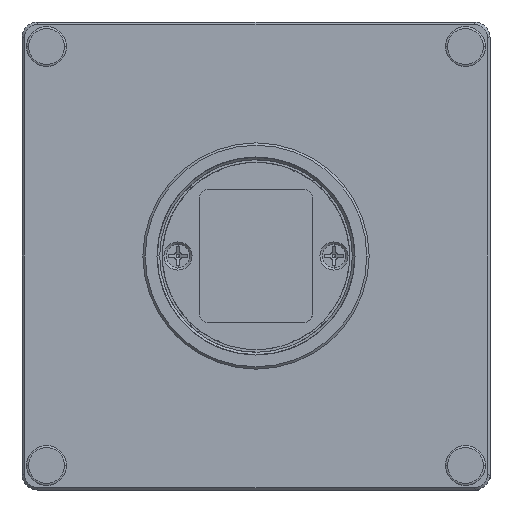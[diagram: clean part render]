
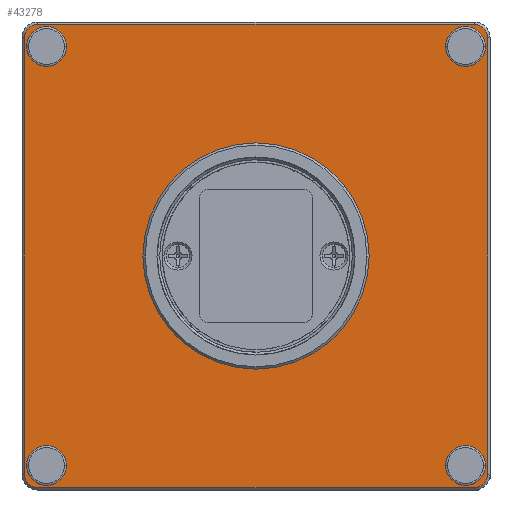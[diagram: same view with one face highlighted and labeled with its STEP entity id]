
A CAD part, left-side view. The second image highlights one B-rep face of the part: STEP entity #43278.
In plain terms, the highlighted planar face has unit normal (-1, 0, 0).
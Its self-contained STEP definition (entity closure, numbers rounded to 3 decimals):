
#2440=DIRECTION('',(0.,0.,1.));
#2441=VECTOR('',#2440,56.);
#2442=CARTESIAN_POINT('',(0.,29.7,-28.));
#2443=LINE('',#2442,#2441);
#2444=CARTESIAN_POINT('',(0.,28.,28.));
#2445=DIRECTION('',(1.,0.,0.));
#2446=DIRECTION('',(0.,1.,0.));
#2447=AXIS2_PLACEMENT_3D('',#2444,#2445,#2446);
#2449=DIRECTION('',(0.,-1.,0.));
#2450=VECTOR('',#2449,56.);
#2451=CARTESIAN_POINT('',(0.,28.,29.7));
#2452=LINE('',#2451,#2450);
#2453=CARTESIAN_POINT('',(0.,-28.,28.));
#2454=DIRECTION('',(1.,0.,0.));
#2455=DIRECTION('',(0.,0.,1.));
#2456=AXIS2_PLACEMENT_3D('',#2453,#2454,#2455);
#2458=DIRECTION('',(0.,0.,-1.));
#2459=VECTOR('',#2458,56.);
#2460=CARTESIAN_POINT('',(0.,-29.7,28.));
#2461=LINE('',#2460,#2459);
#2462=CARTESIAN_POINT('',(0.,-28.,-28.));
#2463=DIRECTION('',(1.,0.,0.));
#2464=DIRECTION('',(0.,-1.,0.));
#2465=AXIS2_PLACEMENT_3D('',#2462,#2463,#2464);
#2467=DIRECTION('',(0.,1.,0.));
#2468=VECTOR('',#2467,56.);
#2469=CARTESIAN_POINT('',(0.,-28.,-29.7));
#2470=LINE('',#2469,#2468);
#2471=CARTESIAN_POINT('',(0.,28.,-28.));
#2472=DIRECTION('',(1.,0.,0.));
#2473=DIRECTION('',(0.,0.,-1.));
#2474=AXIS2_PLACEMENT_3D('',#2471,#2472,#2473);
#2476=CARTESIAN_POINT('',(0.,-26.85,-26.85));
#2477=DIRECTION('',(-1.,0.,0.));
#2478=DIRECTION('',(0.,0.,-1.));
#2479=AXIS2_PLACEMENT_3D('',#2476,#2477,#2478);
#2481=CARTESIAN_POINT('',(0.,-26.85,-26.85));
#2482=DIRECTION('',(-1.,0.,0.));
#2483=DIRECTION('',(0.,0.,1.));
#2484=AXIS2_PLACEMENT_3D('',#2481,#2482,#2483);
#2486=CARTESIAN_POINT('',(0.,-26.85,26.85));
#2487=DIRECTION('',(-1.,0.,0.));
#2488=DIRECTION('',(0.,0.,-1.));
#2489=AXIS2_PLACEMENT_3D('',#2486,#2487,#2488);
#2491=CARTESIAN_POINT('',(0.,-26.85,26.85));
#2492=DIRECTION('',(-1.,0.,0.));
#2493=DIRECTION('',(0.,0.,1.));
#2494=AXIS2_PLACEMENT_3D('',#2491,#2492,#2493);
#2496=CARTESIAN_POINT('',(0.,26.85,26.85));
#2497=DIRECTION('',(-1.,0.,0.));
#2498=DIRECTION('',(0.,0.,-1.));
#2499=AXIS2_PLACEMENT_3D('',#2496,#2497,#2498);
#2501=CARTESIAN_POINT('',(0.,26.85,26.85));
#2502=DIRECTION('',(-1.,0.,0.));
#2503=DIRECTION('',(0.,0.,1.));
#2504=AXIS2_PLACEMENT_3D('',#2501,#2502,#2503);
#2506=CARTESIAN_POINT('',(0.,26.85,-26.85));
#2507=DIRECTION('',(-1.,0.,0.));
#2508=DIRECTION('',(0.,0.,-1.));
#2509=AXIS2_PLACEMENT_3D('',#2506,#2507,#2508);
#2511=CARTESIAN_POINT('',(0.,26.85,-26.85));
#2512=DIRECTION('',(-1.,0.,0.));
#2513=DIRECTION('',(0.,0.,1.));
#2514=AXIS2_PLACEMENT_3D('',#2511,#2512,#2513);
#2516=CARTESIAN_POINT('',(0.,0.,0.));
#2517=DIRECTION('',(-1.,0.,0.));
#2518=DIRECTION('',(0.,1.,0.));
#2519=AXIS2_PLACEMENT_3D('',#2516,#2517,#2518);
#2521=CARTESIAN_POINT('',(0.,0.,0.));
#2522=DIRECTION('',(-1.,0.,0.));
#2523=DIRECTION('',(0.,-1.,0.));
#2524=AXIS2_PLACEMENT_3D('',#2521,#2522,#2523);
#33873=CARTESIAN_POINT('',(0.,-29.7,28.));
#33874=VERTEX_POINT('',#33873);
#33875=CARTESIAN_POINT('',(0.,-28.,29.7));
#33876=VERTEX_POINT('',#33875);
#33893=CARTESIAN_POINT('',(0.,-28.,-29.7));
#33894=VERTEX_POINT('',#33893);
#33895=CARTESIAN_POINT('',(0.,-29.7,-28.));
#33896=VERTEX_POINT('',#33895);
#33917=CARTESIAN_POINT('',(0.,29.7,-28.));
#33918=VERTEX_POINT('',#33917);
#33919=CARTESIAN_POINT('',(0.,28.,-29.7));
#33920=VERTEX_POINT('',#33919);
#33941=CARTESIAN_POINT('',(0.,28.,29.7));
#33942=VERTEX_POINT('',#33941);
#33943=CARTESIAN_POINT('',(0.,29.7,28.));
#33944=VERTEX_POINT('',#33943);
#33945=CARTESIAN_POINT('',(0.,-26.85,-29.4));
#33946=CARTESIAN_POINT('',(0.,-26.85,-24.3));
#33947=VERTEX_POINT('',#33945);
#33948=VERTEX_POINT('',#33946);
#33949=CARTESIAN_POINT('',(0.,-26.85,24.3));
#33950=CARTESIAN_POINT('',(0.,-26.85,29.4));
#33951=VERTEX_POINT('',#33949);
#33952=VERTEX_POINT('',#33950);
#33953=CARTESIAN_POINT('',(0.,26.85,24.3));
#33954=CARTESIAN_POINT('',(0.,26.85,29.4));
#33955=VERTEX_POINT('',#33953);
#33956=VERTEX_POINT('',#33954);
#33957=CARTESIAN_POINT('',(0.,26.85,-29.4));
#33958=CARTESIAN_POINT('',(0.,26.85,-24.3));
#33959=VERTEX_POINT('',#33957);
#33960=VERTEX_POINT('',#33958);
#33961=CARTESIAN_POINT('',(0.,14.5,0.));
#33962=CARTESIAN_POINT('',(0.,-14.5,0.));
#33963=VERTEX_POINT('',#33961);
#33964=VERTEX_POINT('',#33962);
#43233=CARTESIAN_POINT('',(0.,0.,0.));
#43234=DIRECTION('',(1.,0.,0.));
#43235=DIRECTION('',(0.,-1.,0.));
#43236=AXIS2_PLACEMENT_3D('',#43233,#43234,#43235);
#43237=PLANE('',#43236);
#43238=ORIENTED_EDGE('',*,*,#43152,.T.);
#43239=ORIENTED_EDGE('',*,*,#43213,.T.);
#43240=ORIENTED_EDGE('',*,*,#43224,.T.);
#43241=ORIENTED_EDGE('',*,*,#42988,.T.);
#43242=ORIENTED_EDGE('',*,*,#43004,.T.);
#43243=ORIENTED_EDGE('',*,*,#43061,.T.);
#43244=ORIENTED_EDGE('',*,*,#43076,.T.);
#43245=ORIENTED_EDGE('',*,*,#43137,.T.);
#43246=EDGE_LOOP('',(#43238,#43239,#43240,#43241,#43242,#43243,#43244,#43245));
#43247=FACE_OUTER_BOUND('',#43246,.F.);
#43249=ORIENTED_EDGE('',*,*,#43248,.T.);
#43251=ORIENTED_EDGE('',*,*,#43250,.T.);
#43252=EDGE_LOOP('',(#43249,#43251));
#43253=FACE_BOUND('',#43252,.F.);
#43255=ORIENTED_EDGE('',*,*,#43254,.T.);
#43257=ORIENTED_EDGE('',*,*,#43256,.T.);
#43258=EDGE_LOOP('',(#43255,#43257));
#43259=FACE_BOUND('',#43258,.F.);
#43261=ORIENTED_EDGE('',*,*,#43260,.T.);
#43263=ORIENTED_EDGE('',*,*,#43262,.T.);
#43264=EDGE_LOOP('',(#43261,#43263));
#43265=FACE_BOUND('',#43264,.F.);
#43267=ORIENTED_EDGE('',*,*,#43266,.T.);
#43269=ORIENTED_EDGE('',*,*,#43268,.T.);
#43270=EDGE_LOOP('',(#43267,#43269));
#43271=FACE_BOUND('',#43270,.F.);
#43273=ORIENTED_EDGE('',*,*,#43272,.T.);
#43275=ORIENTED_EDGE('',*,*,#43274,.T.);
#43276=EDGE_LOOP('',(#43273,#43275));
#43277=FACE_BOUND('',#43276,.F.);
#43278=ADVANCED_FACE('',(#43247,#43253,#43259,#43265,#43271,#43277),#43237,.F.);
#2448=CIRCLE('',#2447,1.7);
#2457=CIRCLE('',#2456,1.7);
#2466=CIRCLE('',#2465,1.7);
#2475=CIRCLE('',#2474,1.7);
#2480=CIRCLE('',#2479,2.55);
#2485=CIRCLE('',#2484,2.55);
#2490=CIRCLE('',#2489,2.55);
#2495=CIRCLE('',#2494,2.55);
#2500=CIRCLE('',#2499,2.55);
#2505=CIRCLE('',#2504,2.55);
#2510=CIRCLE('',#2509,2.55);
#2515=CIRCLE('',#2514,2.55);
#2520=CIRCLE('',#2519,14.5);
#2525=CIRCLE('',#2524,14.5);
#42988=EDGE_CURVE('',#33876,#33874,#2457,.T.);
#43004=EDGE_CURVE('',#33874,#33896,#2461,.T.);
#43061=EDGE_CURVE('',#33896,#33894,#2466,.T.);
#43076=EDGE_CURVE('',#33894,#33920,#2470,.T.);
#43137=EDGE_CURVE('',#33920,#33918,#2475,.T.);
#43152=EDGE_CURVE('',#33918,#33944,#2443,.T.);
#43213=EDGE_CURVE('',#33944,#33942,#2448,.T.);
#43224=EDGE_CURVE('',#33942,#33876,#2452,.T.);
#43248=EDGE_CURVE('',#33947,#33948,#2480,.T.);
#43250=EDGE_CURVE('',#33948,#33947,#2485,.T.);
#43254=EDGE_CURVE('',#33951,#33952,#2490,.T.);
#43256=EDGE_CURVE('',#33952,#33951,#2495,.T.);
#43260=EDGE_CURVE('',#33955,#33956,#2500,.T.);
#43262=EDGE_CURVE('',#33956,#33955,#2505,.T.);
#43266=EDGE_CURVE('',#33959,#33960,#2510,.T.);
#43268=EDGE_CURVE('',#33960,#33959,#2515,.T.);
#43272=EDGE_CURVE('',#33963,#33964,#2520,.T.);
#43274=EDGE_CURVE('',#33964,#33963,#2525,.T.);
